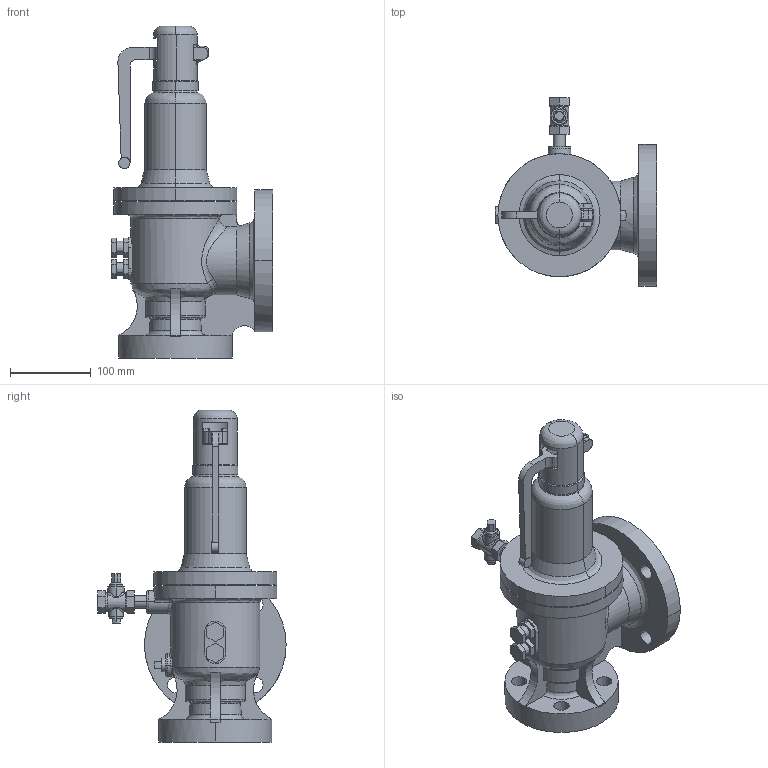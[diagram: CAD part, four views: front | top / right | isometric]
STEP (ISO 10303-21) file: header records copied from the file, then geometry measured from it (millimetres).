
FILE_DESCRIPTION( (''), '2;1');
FILE_NAME ('PC1027.9568.AF-4 40A_30488.stp','2025-07-28T12:47:05',(''),(''),'spGate 19.8.4 (****-****-****-****)','','');
FILE_SCHEMA (('AUTOMOTIVE_DESIGN'));
Length unit declared in the file: millimetre
Products named in the file (7): Assembly; AF-4 本体部P 40A; 背圧絞り弁 40A; 止めボルト 40A; プラグ 10A; レバーキャップ 40A; レバー 40A
Assembly tree (7 placements, depth 2):
  Assembly
    AF-4 本体部P 40A
    背圧絞り弁 40A
    止めボルト 40A  x2
    プラグ 10A
    レバーキャップ 40A
    レバー 40A
Bounding box: 199 x 232.5 x 410 mm (x, y, z)
Volume: 3562461.6 mm3; surface area: 322520.7 mm2
Topology: 7 solids, 7 shells, 380 faces, 969 edges, 616 vertices
Faces by surface type: plane 158, bspline 116, cylinder 104, sphere 2
Entity records: 30890 total; most frequent: CARTESIAN_POINT 15363, ORIENTED_EDGE 1842, DIRECTION 1532, COLOUR_RGB 1289, PRESENTATION_STYLE_ASSIGNMENT 1289, STYLED_ITEM 1289, EDGE_CURVE 921, DRAUGHTING_PRE_DEFINED_CURVE_FONT 921
